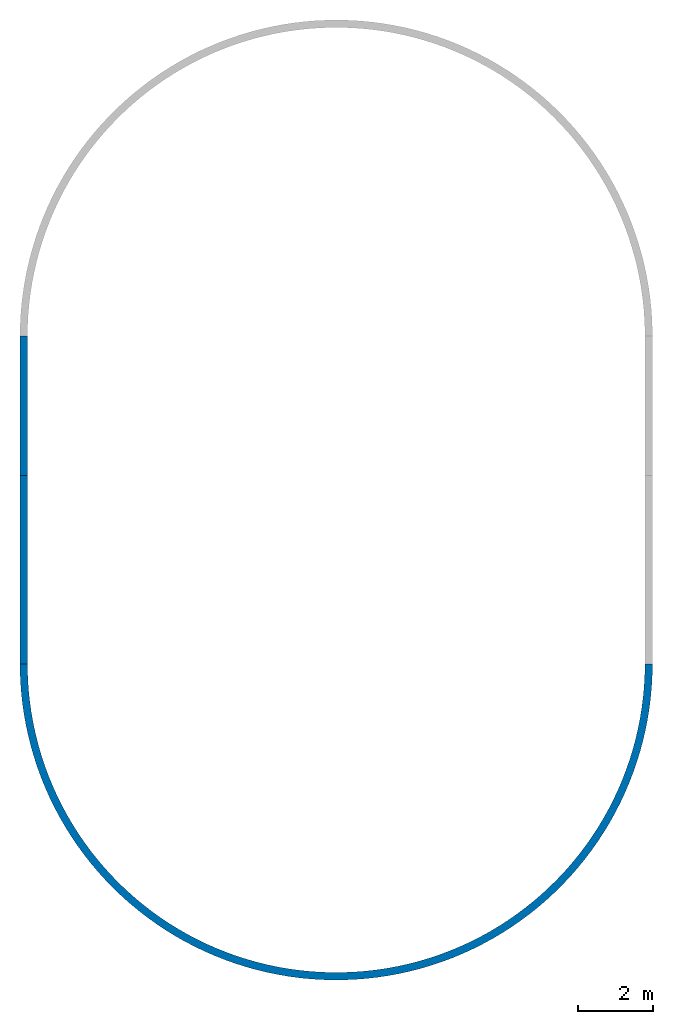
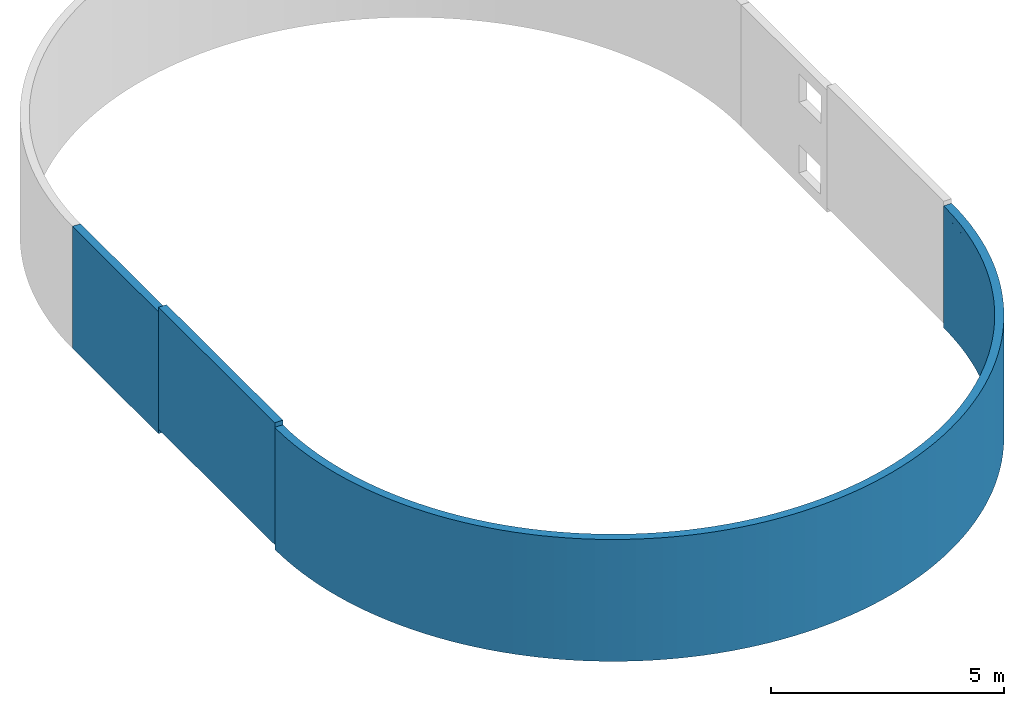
# One storey, part 1 of 2: 3 walls.
"""IFC4 building model written with IfcOpenShell, lengths in millimetres."""

from ifc_helpers import new_model, entity, si_unit, converted_unit, derived_unit, direction, frame, origin_with_axes, place, context, subcontext, project, spatial, polygons, material, constituent, constituent_set, type_object, element, save


model = new_model("IFC4")

# Units and contexts
model_context = context("Model", 3, precision=0.01, world=origin_with_axes(), true_north=direction((0.0, 1.0)))
body_context = subcontext(model_context, "Body", "Model", "MODEL_VIEW")
ifc_project = project(units=[si_unit("LENGTHUNIT", "METRE", prefix="MILLI"), si_unit("AREAUNIT", "SQUARE_METRE"), si_unit("VOLUMEUNIT", "CUBIC_METRE"), converted_unit("PLANEANGLEUNIT", "DEGREE", entity("IfcPlaneAngleMeasure", 0.0174532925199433), si_unit("PLANEANGLEUNIT", "RADIAN"), dimensions=[0, 0, 0, 0, 0, 0, 0]), converted_unit("TIMEUNIT", "Year", entity("IfcTimeMeasure", 31557600.0), si_unit("TIMEUNIT", "SECOND"), dimensions=[0, 0, 1, 0, 0, 0, 0]), si_unit("MASSUNIT", "GRAM", prefix="KILO"), si_unit("THERMODYNAMICTEMPERATUREUNIT", "DEGREE_CELSIUS"), si_unit("LUMINOUSINTENSITYUNIT", "LUMEN"), si_unit("ENERGYUNIT", "JOULE", prefix="MEGA"), derived_unit("THERMALCONDUCTANCEUNIT", [(si_unit("POWERUNIT", "WATT"), 1), (si_unit("LENGTHUNIT", "METRE"), -1), (si_unit("THERMODYNAMICTEMPERATUREUNIT", "KELVIN"), -1)]), derived_unit("SPECIFICHEATCAPACITYUNIT", [(si_unit("ENERGYUNIT", "JOULE"), 1), (si_unit("MASSUNIT", "GRAM", prefix="KILO"), -1), (si_unit("THERMODYNAMICTEMPERATUREUNIT", "KELVIN"), -1)]), derived_unit("MASSDENSITYUNIT", [(si_unit("MASSUNIT", "GRAM", prefix="KILO"), 1), (si_unit("VOLUMEUNIT", "CUBIC_METRE"), -1)])], contexts=[model_context])

# Site, building, storey
site_placement = place(None, origin_with_axes())
site = spatial("IfcSite", under=ifc_project, at=site_placement, Name="Exteriér", CompositionType="ELEMENT")
building_placement = place(site_placement, origin_with_axes())
building = spatial("IfcBuilding", under=site, at=building_placement, Name="Univerzitní lezecké centrum", CompositionType="ELEMENT")
storey_placement = place(building_placement, frame((0.0, 0.0, 3200.0), z_axis=(0.0, 0.0, 1.0), x_axis=(1.0, 0.0, 0.0)))
storey = spatial("IfcBuildingStorey", under=building, at=storey_placement, Name="2.NP", CompositionType="ELEMENT", Elevation=3200.0)

# Walls
ifc_material = material(Name="Tepelná izolace - minerální vata - obvodová izolace")
ifc_constituent_1 = constituent(ifc_material, Name="Tepelná izolace - minerální vata - obvodová izolace")
ifc_constituent_set_1 = constituent_set(constituents=[ifc_constituent_1], Name="Obvodová tepelná izolace")
wall_type = type_object("IfcWallType", Name="Obvodová tepelná izolace 200", PredefinedType="NOTDEFINED")
wall_1_placement = place(storey_placement, frame((-5750.14835114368, -300.1634077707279, -120.000000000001), z_axis=(0.0, 0.0, 1.0), x_axis=(1.968474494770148e-05, -0.9999999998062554, 0.0)))
element("IfcWall", 1, at=wall_1_placement, inside=storey, type_object=wall_type, material=ifc_constituent_set_1, Name="St01", PredefinedType="NOTDEFINED", context=body_context, shape_type="Tessellation", body=[
    polygons([(718.7701734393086, 30.29464050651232, 3000.0), (959.1753008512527, 55.70444339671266, 3000.0), (959.1753008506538, 55.70444339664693, 3200.0), (1005.038206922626, 60.55195815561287, 3200.0), (1005.038206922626, 60.55195815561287, 0.0), (718.7701734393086, 30.29464050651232, 0.0), (431.6166184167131, 10.10236219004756, 3000.0), (143.9313137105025, 0.0, 3000.0), (0.0, 0.0, 3000.0), (0.0, -0.9999999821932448, 3000.0), (143.7854392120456, -1.002830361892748, 3000.0), (431.5060259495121, 9.095100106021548, 3000.0), (718.6949967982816, 29.28418763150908, 3000.0), (718.8575022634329, 29.30204121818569, 3200.0), (718.6949967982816, 29.28418763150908, 3200.0), (736.3011532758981, -168.9664658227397, 3200.0), (1029.551333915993, -137.971164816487, 3200.0), (1290.068037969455, 100.8370382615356, 0.0), (1290.068037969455, 100.8370382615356, 3200.0), (1029.551333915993, -137.971164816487, 0.0), (736.3011532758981, -168.9664658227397, 0.0), (431.6166184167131, 10.10236219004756, 0.0), (143.9313137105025, 0.0, 0.0), (0.0, 0.0, 0.0), (0.0, -200.0000000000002, 0.0), (0.0, -200.0000000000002, 3200.0), (0.0, -0.9999999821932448, 3200.0), (143.7854392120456, -1.002830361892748, 3200.0), (143.9488153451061, -0.9970964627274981, 3200.0), (431.5060259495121, 9.095100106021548, 3200.0), (431.6690980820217, 9.106563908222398, 3200.0), (442.1438530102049, -189.6512387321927, 3200.0), (1321.53311206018, -96.70352178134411, 3200.0), (1321.53311206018, -96.70352178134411, 0.0), (1573.508511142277, 151.1002497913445, 0.0), (1573.508511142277, 151.1002497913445, 3200.0), (442.1438530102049, -189.6512387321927, 0.0), (147.4418335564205, -200.0000000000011, 0.0), (147.4418335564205, -200.0000000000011, 3200.0), (1611.886767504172, -45.21437826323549, 3200.0), (1611.886767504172, -45.21437826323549, 0.0), (1855.010429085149, 211.2796687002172, 0.0), (1855.010429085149, 211.2796687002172, 3200.0), (1900.254585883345, 16.43283135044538, 3200.0), (1900.254585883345, 16.43283135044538, 0.0), (2134.226982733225, 281.3011542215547, 0.0), (2134.226982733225, 281.3011542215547, 3200.0), (2186.281299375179, 88.16215798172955, 3200.0), (2186.281299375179, 88.16215798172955, 0.0), (2410.81417857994, 361.0784402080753, 0.0), (2410.81417857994, 361.0784402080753, 3200.0), (2469.61452438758, 169.8852314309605, 3200.0), (2469.61452438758, 169.8852314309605, 0.0), (2684.431262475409, 450.5132414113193, 0.0), (2684.431262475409, 450.5132414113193, 3200.0), (2749.905195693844, 261.5013692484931, 3200.0), (2749.905195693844, 261.5013692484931, 0.0), (2954.741139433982, 549.4953745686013, 0.0), (2954.741139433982, 549.4953745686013, 3200.0), (3026.807996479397, 362.8977007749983, 3200.0), (3026.807996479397, 362.8977007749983, 0.0), (3221.410788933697, 657.9028941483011, 0.0), (3221.410788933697, 657.9028941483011, 3200.0), (3299.98178377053, 473.9493061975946, 3200.0), (3299.98178377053, 473.9493061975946, 0.0), (3484.111675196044, 775.6022425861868, 0.0), (3484.111675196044, 775.6022425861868, 3200.0), (3569.09000872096, 594.519370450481, 3200.0), (3569.09000872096, 594.519370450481, 0.0), (3742.520151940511, 902.4484148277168, 0.0), (3742.520151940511, 902.4484148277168, 3200.0), (3833.801131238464, 724.4593517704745, 3200.0), (3833.801131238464, 724.4593517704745, 0.0), (3996.317861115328, 1038.285136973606, 0.0), (3996.317861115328, 1038.285136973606, 3200.0), (4093.789028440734, 863.6091646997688, 3200.0), (4093.789028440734, 863.6091646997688, 0.0), (4245.192125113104, 1182.945058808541, 0.0), (4245.192125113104, 1182.945058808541, 3200.0), (4348.733396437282, 1011.797377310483, 3200.0), (4348.733396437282, 1011.797377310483, 0.0), (4488.836331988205, 1336.249959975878, 0.0), (4488.836331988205, 1336.249959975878, 3200.0), (4598.320144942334, 1168.841422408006, 3200.0), (4598.320144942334, 1168.841422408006, 0.0), (4726.950313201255, 1498.010969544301, 0.0), (4726.950313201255, 1498.010969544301, 3200.0), (4842.241784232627, 1334.547822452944, 3200.0), (4842.241784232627, 1334.547822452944, 0.0), (4959.240713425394, 1668.028798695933, 0.0), (4959.240713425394, 1668.028798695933, 3200.0), (5080.197803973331, 1508.712427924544, 3200.0), (5080.197803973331, 1508.712427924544, 0.0), (5185.421351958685, 1846.093986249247, 0.0), (5185.421351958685, 1846.093986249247, 3200.0), (5311.895043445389, 1691.120668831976, 3200.0), (5311.895043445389, 1691.120668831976, 0.0), (5405.213575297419, 2031.987156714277, 0.0), (5405.213575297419, 2031.987156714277, 3200.0), (5537.048052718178, 1881.547819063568, 3200.0), (5537.048052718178, 1881.547819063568, 0.0), (5618.346600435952, 2225.479290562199, 0.0), (5618.346600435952, 2225.479290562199, 3200.0), (5755.379444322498, 2079.759273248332, 3200.0), (5755.379444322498, 2079.759273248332, 0.0), (5824.557848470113, 2426.332006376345, 0.0), (5824.557848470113, 2426.332006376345, 3200.0), (5966.620234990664, 2285.510835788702, 3200.0), (5966.620234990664, 2285.510835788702, 0.0), (6023.593268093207, 2634.297854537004, 0.0), (6023.593268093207, 2634.297854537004, 3200.0), (6170.51017704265, 2498.549021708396, 3200.0), (6170.51017704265, 2498.549021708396, 0.0), (6215.207648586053, 2849.120622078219, 0.0), (6215.207648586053, 2849.120622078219, 3200.0), (6366.798079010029, 2718.611368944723, 3200.0), (6366.798079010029, 2718.611368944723, 0.0), (6399.16492191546, 3070.53564834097, 0.0), (6399.16492191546, 3070.53564834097, 3200.0), (6555.242115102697, 2945.426761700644, 3200.0), (6555.242115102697, 2945.426761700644, 0.0), (6575.238453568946, 3298.270151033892, 0.0), (6575.238453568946, 3298.270151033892, 3200.0), (6735.610123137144, 3178.715764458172, 3200.0), (6735.610123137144, 3178.715764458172, 0.0), (6743.21132176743, 3532.043562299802, 0.0), (6743.21132176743, 3532.043562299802, 3200.0), (6907.679890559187, 3418.190966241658, 3200.0), (6907.679890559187, 3418.190966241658, 0.0), (6902.876584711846, 3771.567874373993, 0.0), (6902.876584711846, 3771.567874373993, 3200.0), (7071.239428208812, 3663.557334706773, 3200.0), (7071.239428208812, 3663.557334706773, 0.0), (7054.037535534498, 4016.547994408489, 0.0), (7054.037535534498, 4016.547994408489, 3200.0), (7226.087231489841, 3914.512579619, 3200.0), (7226.087231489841, 3914.512579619, 0.0), (7196.507944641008, 4266.68210802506, 0.0), (7196.507944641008, 4266.68210802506, 3200.0), (7372.032528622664, 4170.74752527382, 3200.0), (7372.032528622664, 4170.74752527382, 0.0), (7330.112289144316, 4521.662051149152, 0.0), (7330.112289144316, 4521.662051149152, 3200.0), (7508.895515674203, 4431.946491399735, 3200.0), (7508.895515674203, 4431.946491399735, 0.0), (7454.685969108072, 4781.173689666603, 0.0), (7454.685969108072, 4781.173689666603, 3200.0), (7636.507578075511, 4697.787682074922, 3200.0), (7636.507578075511, 4697.787682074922, 0.0), (7570.075510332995, 5044.89730643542, 0.0), (7570.075510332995, 5044.89730643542, 3200.0), (7754.711498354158, 4967.943582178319, 3200.0), (7754.711498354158, 4967.943582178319, 0.0), (7676.138753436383, 5312.50799517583, 0.0), (7676.138753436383, 5312.50799517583, 3200.0), (7863.361649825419, 5242.081360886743, 3200.0), (7863.361649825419, 5242.081360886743, 0.0), (7772.745028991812, 5583.676060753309, 0.0), (7772.745028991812, 5583.676060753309, 3200.0), (7962.324176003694, 5519.86328172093, 3200.0), (7962.324176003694, 5519.86328172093, 0.0), (7859.775318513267, 5858.067425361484, 0.0), (7859.775318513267, 5858.067425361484, 3200.0), (8051.477155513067, 5800.947118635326, 3200.0), (8051.477155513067, 5800.947118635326, 0.0), (7937.122401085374, 6135.344040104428, 0.0), (7937.122401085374, 6135.344040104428, 3200.0), (8130.710752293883, 6084.986577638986, 3200.0), (8130.710752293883, 6084.986577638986, 0.0), (8004.690985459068, 6415.164301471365, 0.0), (8004.690985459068, 6415.164301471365, 3200.0), (8199.927350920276, 6371.631723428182, 3200.0), (8199.927350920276, 6371.631723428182, 0.0), (8062.397827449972, 6697.183472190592, 0.0), (8062.397827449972, 6697.183472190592, 3200.0), (8259.041676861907, 6660.529410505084, 3200.0), (8259.041676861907, 6660.529410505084, 0.0), (8110.171832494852, 6981.054105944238, 0.0), (8110.171832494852, 6981.054105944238, 3200.0), (8307.980901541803, 6951.323718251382, 3200.0), (8307.980901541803, 6951.323718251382, 0.0), (8147.95414323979, 7266.426475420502, 0.0), (8147.95414323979, 7266.426475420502, 3200.0), (8346.68473206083, 7243.656389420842, 3200.0), (8346.68473206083, 7243.656389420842, 0.0), (8175.698212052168, 7552.949003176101, 0.0), (8175.698212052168, 7552.949003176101, 3200.0), (8375.105485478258, 7537.167271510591, 3200.0), (8375.105485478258, 7537.167271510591, 0.0), (8193.369858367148, 7840.268694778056, 0.0), (8193.369858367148, 7840.268694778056, 3200.0), (8393.20814755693, 7831.494760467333, 3200.0), (8393.20814755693, 7831.494760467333, 0.0), (8200.947310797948, 8128.031573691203, 0.0), (8200.947310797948, 8128.031573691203, 3200.0), (8400.970415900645, 8126.276246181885, 3200.0), (8400.970415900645, 8126.276246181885, 0.0), (8198.421233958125, 8415.883117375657, 0.0), (8198.421233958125, 8415.883117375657, 3200.0), (8398.382727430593, 8421.148559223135, 3200.0), (8398.382727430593, 8421.148559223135, 0.0), (8185.794739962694, 8703.46869405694, 0.0), (8185.794739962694, 8703.46869405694, 3200.0), (8385.448270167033, 8715.748418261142, 3200.0), (8385.448270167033, 8715.748418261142, 0.0), (8163.083384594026, 8990.433999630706, 0.0), (8163.083384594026, 8990.433999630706, 3200.0), (8362.182979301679, 9009.712877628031, 3200.0), (8362.182979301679, 9009.712877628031, 0.0), (8130.31514813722, 9276.425494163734, 0.0), (8130.31514813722, 9276.425494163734, 3200.0), (8328.615517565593, 9302.679774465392, 3200.0), (8328.615517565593, 9302.679774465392, 0.0), (8087.530400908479, 9561.09083745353, 0.0), (8087.530400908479, 9561.09083745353, 3200.0), (8284.787239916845, 9594.288174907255, 3200.0), (8284.787239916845, 9594.288174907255, 0.0), (8034.78185351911, 9844.07932310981, 0.0), (8034.78185351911, 9844.07932310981, 3200.0), (8230.752142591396, 9884.17881874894, 3200.0), (8230.752142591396, 9884.17881874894, 0.0), (7972.134491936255, 10125.04231062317, 0.0), (7972.134491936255, 10125.04231062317, 3200.0), (8166.576796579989, 10171.99456205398, 3200.0), (8166.576796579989, 10171.99456205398, 0.0), (7899.665497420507, 10403.63365488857, 0.0), (7899.665497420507, 10403.63365488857, 3200.0), (8092.340265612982, 10457.3808171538, 3200.0), (8092.340265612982, 10457.3808171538, 0.0), (7817.46415143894, 10679.51013265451, 0.0), (7817.46415143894, 10679.51013265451, 3200.0), (8008.134008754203, 10739.9859894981, 3200.0), (8008.134008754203, 10739.9859894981, 0.0), (7725.631725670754, 10952.33186537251, 0.0), (7725.631725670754, 10952.33186537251, 3200.0), (7914.061767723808, 11019.4619108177, 3200.0), (7914.061767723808, 11019.4619108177, 0.0), (7624.281357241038, 11221.76273792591, 0.0), (7624.281357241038, 11221.76273792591, 3200.0), (7810.239439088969, 11295.46426806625, 3200.0), (7810.239439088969, 11295.46426806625, 0.0), (7513.537909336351, 11487.47081272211, 0.0), (7513.537909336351, 11487.47081272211, 3200.0), (7696.794931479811, 11567.65302761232, 3200.0), (7696.794931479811, 11567.65302761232, 0.0), (7393.537817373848, 11749.12873863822, 0.0), (7393.537817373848, 11749.12873863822, 3200.0), (7573.868008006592, 11835.69285415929, 3200.0), (7573.868008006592, 11835.69285415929, 0.0), (7264.428920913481, 12006.41415431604, 0.0), (7264.428920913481, 12006.41415431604, 3200.0), (7441.610114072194, 12099.25352387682, 3200.0), (7441.610114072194, 12099.25352387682, 0.0), (7126.370281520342, 12259.01008530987, 0.0), (7126.370281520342, 12259.01008530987, 3200.0), (7300.184190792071, 12358.01033123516, 3200.0), (7300.184190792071, 12358.01033123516, 0.0), (6979.531986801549, 12506.60533459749, 0.0), (6979.531986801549, 12506.60533459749, 3200.0), (7149.764474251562, 12611.64448904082, 3200.0), (7149.764474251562, 12611.64448904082, 0.0), (6824.09494085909, 12748.89486597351, 0.0), (6824.09494085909, 12748.89486597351, 3200.0), (6990.536280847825, 12859.84352118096, 3200.0), (6990.536280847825, 12859.84352118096, 0.0), (6660.250641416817, 12985.58017985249, 0.0), (6660.250641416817, 12985.58017985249, 3200.0), (6822.695778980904, 13102.30164759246, 3200.0), (6822.695778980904, 13102.30164759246, 0.0), (6488.200943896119, 13216.36968101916, 0.0), (6488.200943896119, 13216.36968101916, 3200.0), (6646.449747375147, 13338.72016098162, 3200.0), (6646.449747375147, 13338.72016098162, 0.0), (6308.157812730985, 13440.9790378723, 0.0), (6308.157812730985, 13440.9790378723, 3200.0), (6462.015320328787, 13568.80779483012, 3200.0), (6462.015320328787, 13568.80779483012, 0.0), (6120.343060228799, 13659.13153271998, 0.0), (6120.343060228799, 13659.13153271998, 3200.0), (6269.619720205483, 13792.28108223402, 3200.0), (6269.619720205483, 13792.28108223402, 0.0), (5924.988073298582, 13870.55840269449, 0.0), (5924.988073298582, 13870.55840269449, 3200.0), (6069.499977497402, 14008.86470513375, 3200.0), (6069.499977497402, 14008.86470513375, 0.0), (5722.333528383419, 14074.99917086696, 0.0), (5722.333528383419, 14074.99917086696, 3200.0), (5861.902638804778, 14218.29183350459, 3200.0), (5861.902638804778, 14218.29183350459, 0.0), (5512.629094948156, 14272.20196715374, 0.0), (5512.629094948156, 14272.20196715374, 3200.0), (5647.083463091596, 14420.3044540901, 3200.0), (5647.083463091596, 14420.3044540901, 0.0), (5296.133127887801, 14461.92383861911, 0.0), (5296.133127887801, 14461.92383861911, 3200.0), (5425.307106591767, 14614.65368827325, 3200.0), (5425.307106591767, 14614.65368827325, 0.0), (5073.112349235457, 14643.9310487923, 0.0), (5073.112349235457, 14643.9310487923, 3200.0), (5196.846796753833, 14801.1000986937, 3200.0), (5196.846796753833, 14801.1000986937, 0.0), (4843.841519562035, 14817.99936562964, 0.0), (4843.841519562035, 14817.99936562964, 3200.0), (4961.983995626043, 14979.41398423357, 3200.0), (4961.983995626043, 14979.41398423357, 0.0), (4608.603099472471, 14983.91433776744, 0.0), (4608.603099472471, 14983.91433776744, 3200.0), (4721.00805309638, 15149.3756630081, 3200.0), (4721.00805309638, 15149.3756630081, 0.0), (4367.686901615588, 15141.47155872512, 0.0), (4367.686901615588, 15141.47155872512, 3200.0), (4474.215850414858, 15310.77574301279, 3200.0), (4474.215850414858, 15310.77574301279, 0.0), (4121.389733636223, 15290.47691873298, 0.0), (4121.389733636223, 15290.47691873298, 3200.0), (4221.91143443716, 15463.4153800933, 3200.0), (4221.91143443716, 15463.4153800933, 0.0), (3870.015032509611, 15430.74684387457, 0.0), (3870.015032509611, 15430.74684387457, 3200.0), (3964.405643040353, 15607.10652292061, 3200.0), (3964.405643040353, 15607.10652292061, 0.0), (3613.872490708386, 15562.10852224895, 0.0), (3613.872490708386, 15562.10852224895, 3200.0), (3702.015722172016, 15741.67214466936, 3200.0), (3702.015722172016, 15741.67214466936, 0.0), (3353.277674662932, 15684.40011687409, 0.0), (3353.277674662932, 15684.40011687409, 3200.0), (3435.064935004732, 15866.94646111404, 3200.0), (3435.064935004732, 15866.94646111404, 0.0), (3088.55163598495, 15797.47096506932, 0.0), (3088.55163598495, 15797.47096506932, 3200.0), (3163.882163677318, 15982.77513487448, 3200.0), (3163.882163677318, 15982.77513487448, 0.0), (2820.020515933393, 15901.18176407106, 0.0), (2820.020515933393, 15901.18176407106, 3200.0), (2888.801504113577, 16089.0154655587, 3200.0), (2888.801504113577, 16089.0154655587, 0.0), (2548.015143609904, 15995.40474265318, 0.0), (2548.015143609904, 15995.40474265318, 3200.0), (2610.161854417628, 16185.5365655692, 3200.0), (2610.161854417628, 16185.5365655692, 0.0), (2272.870628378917, 16080.02381854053, 0.0), (2272.870628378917, 16080.02381854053, 3200.0), (2328.306497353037, 16272.21952135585, 3200.0), (2328.306497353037, 16272.21952135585, 0.0), (1994.925947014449, 16154.93474142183, 0.0), (1994.925947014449, 16154.93474142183, 3200.0), (2043.582677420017, 16348.95753991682, 3200.0), (2043.582677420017, 16348.95753991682, 0.0), (1714.523526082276, 16220.04522138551, 0.0), (1714.523526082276, 16220.04522138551, 3200.0), (1756.341173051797, 16415.65608036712, 3200.0), (1756.341173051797, 16415.65608036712, 0.0), (1432.008820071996, 16275.2750426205, 0.0), (1432.008820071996, 16275.2750426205, 3200.0), (1466.935864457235, 16472.23297041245, 3200.0), (1466.935864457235, 16472.23297041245, 0.0), (1147.729885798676, 16320.55616224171, 0.0), (1147.729885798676, 16320.55616224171, 3200.0), (1175.723297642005, 16518.61850758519, 3200.0), (1175.723297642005, 16518.61850758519, 0.0), (999.771027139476, 16338.82574332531, 3000.0), (862.0369535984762, 16355.83279411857, 3000.0), (862.0369535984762, 16355.83279411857, 0.0), (999.771027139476, 16338.82574332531, 3200.0), (999.7710469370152, 16339.83138046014, 3200.0), (883.0622451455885, 16554.75554511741, 3200.0), (862.1180237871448, 16356.59980868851, 3200.0), (883.0622451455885, 16554.75554511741, 0.0), (1.688154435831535, 16399.98200375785, 3000.0), (287.818293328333, 16396.2111310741, 3000.0), (575.2819958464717, 16381.06147760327, 3000.0), (999.7710469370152, 16339.83138046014, 3000.0), (856.8951444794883, 16357.2360422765, 3000.0), (570.0977501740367, 16381.99563927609, 3000.0), (282.6080995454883, 16396.67500593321, 3000.0), (575.2819958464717, 16381.06147760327, 0.0), (856.8951444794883, 16357.2360422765, 3200.0), (589.3132640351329, 16580.59956234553, 3200.0), (575.3160064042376, 16381.54514033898, 3200.0), (589.3132640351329, 16580.59956234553, 0.0), (1.688154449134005, 16399.9820037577, 3200.0), (0.3228585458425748, 16399.99999681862, 3200.0), (0.3228585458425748, 16399.99999681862, 0.0), (287.818293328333, 16396.2111310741, 0.0), (570.0977501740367, 16381.99563927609, 3200.0), (287.8252282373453, 16396.40861670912, 3200.0), (282.6080995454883, 16396.67500593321, 3200.0), (294.8382517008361, 16596.11871955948, 3200.0), (294.8382517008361, 16596.11871955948, 0.0), (0.3307331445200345, 16599.9999966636, 3200.0), (0.3307331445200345, 16599.9999966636, 0.0)], [[[1, 2, 3, 4, 5, 6]], [[2, 1, 7, 8, 9, 10, 11, 12, 13]], [[14, 3, 2, 13, 15]], [[3, 14, 16, 17, 4]], [[18, 5, 4, 19]], [[20, 21, 6, 5]], [[7, 1, 6, 22]], [[8, 7, 22, 23]], [[9, 8, 23, 24]], [[10, 9, 24, 25, 26, 27]], [[10, 27, 28, 11]], [[29, 30, 12, 11, 28]], [[31, 15, 13, 12, 30]], [[15, 31, 32, 16, 14]], [[17, 16, 21, 20]], [[19, 4, 17, 33]], [[34, 20, 5, 18]], [[35, 18, 19, 36]], [[21, 37, 22, 6]], [[37, 38, 23, 22]], [[38, 25, 24, 23]], [[39, 26, 25, 38]], [[28, 27, 26, 39, 29]], [[30, 29, 39, 32, 31]], [[16, 32, 37, 21]], [[33, 17, 20, 34]], [[36, 19, 33, 40]], [[41, 34, 18, 35]], [[42, 35, 36, 43]], [[32, 39, 38, 37]], [[40, 33, 34, 41]], [[43, 36, 40, 44]], [[45, 41, 35, 42]], [[46, 42, 43, 47]], [[44, 40, 41, 45]], [[47, 43, 44, 48]], [[49, 45, 42, 46]], [[50, 46, 47, 51]], [[48, 44, 45, 49]], [[51, 47, 48, 52]], [[53, 49, 46, 50]], [[54, 50, 51, 55]], [[52, 48, 49, 53]], [[55, 51, 52, 56]], [[57, 53, 50, 54]], [[58, 54, 55, 59]], [[56, 52, 53, 57]], [[59, 55, 56, 60]], [[61, 57, 54, 58]], [[62, 58, 59, 63]], [[60, 56, 57, 61]], [[63, 59, 60, 64]], [[65, 61, 58, 62]], [[66, 62, 63, 67]], [[64, 60, 61, 65]], [[67, 63, 64, 68]], [[69, 65, 62, 66]], [[70, 66, 67, 71]], [[68, 64, 65, 69]], [[71, 67, 68, 72]], [[73, 69, 66, 70]], [[74, 70, 71, 75]], [[72, 68, 69, 73]], [[75, 71, 72, 76]], [[77, 73, 70, 74]], [[78, 74, 75, 79]], [[76, 72, 73, 77]], [[79, 75, 76, 80]], [[81, 77, 74, 78]], [[82, 78, 79, 83]], [[80, 76, 77, 81]], [[83, 79, 80, 84]], [[85, 81, 78, 82]], [[86, 82, 83, 87]], [[84, 80, 81, 85]], [[87, 83, 84, 88]], [[89, 85, 82, 86]], [[90, 86, 87, 91]], [[88, 84, 85, 89]], [[91, 87, 88, 92]], [[93, 89, 86, 90]], [[94, 90, 91, 95]], [[92, 88, 89, 93]], [[95, 91, 92, 96]], [[97, 93, 90, 94]], [[98, 94, 95, 99]], [[96, 92, 93, 97]], [[99, 95, 96, 100]], [[101, 97, 94, 98]], [[102, 98, 99, 103]], [[100, 96, 97, 101]], [[103, 99, 100, 104]], [[105, 101, 98, 102]], [[106, 102, 103, 107]], [[104, 100, 101, 105]], [[107, 103, 104, 108]], [[109, 105, 102, 106]], [[110, 106, 107, 111]], [[108, 104, 105, 109]], [[111, 107, 108, 112]], [[113, 109, 106, 110]], [[114, 110, 111, 115]], [[112, 108, 109, 113]], [[115, 111, 112, 116]], [[117, 113, 110, 114]], [[118, 114, 115, 119]], [[116, 112, 113, 117]], [[119, 115, 116, 120]], [[121, 117, 114, 118]], [[122, 118, 119, 123]], [[120, 116, 117, 121]], [[123, 119, 120, 124]], [[125, 121, 118, 122]], [[126, 122, 123, 127]], [[124, 120, 121, 125]], [[127, 123, 124, 128]], [[129, 125, 122, 126]], [[130, 126, 127, 131]], [[128, 124, 125, 129]], [[131, 127, 128, 132]], [[133, 129, 126, 130]], [[134, 130, 131, 135]], [[132, 128, 129, 133]], [[135, 131, 132, 136]], [[137, 133, 130, 134]], [[138, 134, 135, 139]], [[136, 132, 133, 137]], [[139, 135, 136, 140]], [[141, 137, 134, 138]], [[142, 138, 139, 143]], [[140, 136, 137, 141]], [[143, 139, 140, 144]], [[145, 141, 138, 142]], [[146, 142, 143, 147]], [[144, 140, 141, 145]], [[147, 143, 144, 148]], [[149, 145, 142, 146]], [[150, 146, 147, 151]], [[148, 144, 145, 149]], [[151, 147, 148, 152]], [[153, 149, 146, 150]], [[154, 150, 151, 155]], [[152, 148, 149, 153]], [[155, 151, 152, 156]], [[157, 153, 150, 154]], [[158, 154, 155, 159]], [[156, 152, 153, 157]], [[159, 155, 156, 160]], [[161, 157, 154, 158]], [[162, 158, 159, 163]], [[160, 156, 157, 161]], [[163, 159, 160, 164]], [[165, 161, 158, 162]], [[166, 162, 163, 167]], [[164, 160, 161, 165]], [[167, 163, 164, 168]], [[169, 165, 162, 166]], [[170, 166, 167, 171]], [[168, 164, 165, 169]], [[171, 167, 168, 172]], [[173, 169, 166, 170]], [[174, 170, 171, 175]], [[172, 168, 169, 173]], [[175, 171, 172, 176]], [[177, 173, 170, 174]], [[178, 174, 175, 179]], [[176, 172, 173, 177]], [[179, 175, 176, 180]], [[181, 177, 174, 178]], [[182, 178, 179, 183]], [[180, 176, 177, 181]], [[183, 179, 180, 184]], [[185, 181, 178, 182]], [[186, 182, 183, 187]], [[184, 180, 181, 185]], [[187, 183, 184, 188]], [[189, 185, 182, 186]], [[190, 186, 187, 191]], [[188, 184, 185, 189]], [[191, 187, 188, 192]], [[193, 189, 186, 190]], [[194, 190, 191, 195]], [[192, 188, 189, 193]], [[195, 191, 192, 196]], [[197, 193, 190, 194]], [[198, 194, 195, 199]], [[196, 192, 193, 197]], [[199, 195, 196, 200]], [[201, 197, 194, 198]], [[202, 198, 199, 203]], [[200, 196, 197, 201]], [[203, 199, 200, 204]], [[205, 201, 198, 202]], [[206, 202, 203, 207]], [[204, 200, 201, 205]], [[207, 203, 204, 208]], [[209, 205, 202, 206]], [[210, 206, 207, 211]], [[208, 204, 205, 209]], [[211, 207, 208, 212]], [[213, 209, 206, 210]], [[214, 210, 211, 215]], [[212, 208, 209, 213]], [[215, 211, 212, 216]], [[217, 213, 210, 214]], [[218, 214, 215, 219]], [[216, 212, 213, 217]], [[219, 215, 216, 220]], [[221, 217, 214, 218]], [[222, 218, 219, 223]], [[220, 216, 217, 221]], [[223, 219, 220, 224]], [[225, 221, 218, 222]], [[226, 222, 223, 227]], [[224, 220, 221, 225]], [[227, 223, 224, 228]], [[229, 225, 222, 226]], [[230, 226, 227, 231]], [[228, 224, 225, 229]], [[231, 227, 228, 232]], [[233, 229, 226, 230]], [[234, 230, 231, 235]], [[232, 228, 229, 233]], [[235, 231, 232, 236]], [[237, 233, 230, 234]], [[238, 234, 235, 239]], [[236, 232, 233, 237]], [[239, 235, 236, 240]], [[241, 237, 234, 238]], [[242, 238, 239, 243]], [[240, 236, 237, 241]], [[243, 239, 240, 244]], [[245, 241, 238, 242]], [[246, 242, 243, 247]], [[244, 240, 241, 245]], [[247, 243, 244, 248]], [[249, 245, 242, 246]], [[250, 246, 247, 251]], [[248, 244, 245, 249]], [[251, 247, 248, 252]], [[253, 249, 246, 250]], [[254, 250, 251, 255]], [[252, 248, 249, 253]], [[255, 251, 252, 256]], [[257, 253, 250, 254]], [[258, 254, 255, 259]], [[256, 252, 253, 257]], [[259, 255, 256, 260]], [[261, 257, 254, 258]], [[262, 258, 259, 263]], [[260, 256, 257, 261]], [[263, 259, 260, 264]], [[265, 261, 258, 262]], [[266, 262, 263, 267]], [[264, 260, 261, 265]], [[267, 263, 264, 268]], [[269, 265, 262, 266]], [[270, 266, 267, 271]], [[268, 264, 265, 269]], [[271, 267, 268, 272]], [[273, 269, 266, 270]], [[274, 270, 271, 275]], [[272, 268, 269, 273]], [[275, 271, 272, 276]], [[277, 273, 270, 274]], [[278, 274, 275, 279]], [[276, 272, 273, 277]], [[279, 275, 276, 280]], [[281, 277, 274, 278]], [[282, 278, 279, 283]], [[280, 276, 277, 281]], [[283, 279, 280, 284]], [[285, 281, 278, 282]], [[286, 282, 283, 287]], [[284, 280, 281, 285]], [[287, 283, 284, 288]], [[289, 285, 282, 286]], [[290, 286, 287, 291]], [[288, 284, 285, 289]], [[291, 287, 288, 292]], [[293, 289, 286, 290]], [[294, 290, 291, 295]], [[292, 288, 289, 293]], [[295, 291, 292, 296]], [[297, 293, 290, 294]], [[298, 294, 295, 299]], [[296, 292, 293, 297]], [[299, 295, 296, 300]], [[301, 297, 294, 298]], [[302, 298, 299, 303]], [[300, 296, 297, 301]], [[303, 299, 300, 304]], [[305, 301, 298, 302]], [[306, 302, 303, 307]], [[304, 300, 301, 305]], [[307, 303, 304, 308]], [[309, 305, 302, 306]], [[310, 306, 307, 311]], [[308, 304, 305, 309]], [[311, 307, 308, 312]], [[313, 309, 306, 310]], [[314, 310, 311, 315]], [[312, 308, 309, 313]], [[315, 311, 312, 316]], [[317, 313, 310, 314]], [[318, 314, 315, 319]], [[316, 312, 313, 317]], [[319, 315, 316, 320]], [[321, 317, 314, 318]], [[322, 318, 319, 323]], [[320, 316, 317, 321]], [[323, 319, 320, 324]], [[325, 321, 318, 322]], [[326, 322, 323, 327]], [[324, 320, 321, 325]], [[327, 323, 324, 328]], [[329, 325, 322, 326]], [[330, 326, 327, 331]], [[328, 324, 325, 329]], [[331, 327, 328, 332]], [[333, 329, 326, 330]], [[334, 330, 331, 335]], [[332, 328, 329, 333]], [[335, 331, 332, 336]], [[337, 333, 330, 334]], [[338, 334, 335, 339]], [[336, 332, 333, 337]], [[339, 335, 336, 340]], [[341, 337, 334, 338]], [[342, 338, 339, 343]], [[340, 336, 337, 341]], [[343, 339, 340, 344]], [[345, 341, 338, 342]], [[346, 342, 343, 347]], [[344, 340, 341, 345]], [[347, 343, 344, 348]], [[349, 345, 342, 346]], [[350, 346, 347, 351]], [[348, 344, 345, 349]], [[351, 347, 348, 352]], [[353, 349, 346, 350]], [[354, 350, 351, 355]], [[352, 348, 349, 353]], [[355, 351, 352, 356]], [[357, 353, 350, 354]], [[358, 354, 355, 359]], [[356, 352, 353, 357]], [[359, 355, 356, 360]], [[361, 357, 354, 358]], [[362, 363, 364, 358, 359, 365]], [[360, 356, 357, 361]], [[366, 365, 359, 360, 367, 368]], [[369, 361, 358, 364]], [[370, 371, 372, 363, 362, 373, 374, 375, 376]], [[363, 372, 377, 364]], [[365, 366, 373, 362]], [[367, 360, 361, 369]], [[378, 368, 367, 379, 380]], [[368, 378, 374, 373, 366]], [[381, 369, 364, 377]], [[371, 370, 382, 383, 384, 385]], [[372, 371, 385, 377]], [[380, 386, 375, 374, 378]], [[387, 388, 376, 375, 386]], [[388, 382, 370, 376]], [[379, 367, 369, 381]], [[386, 380, 379, 389, 387]], [[390, 381, 377, 385]], [[388, 387, 389, 391, 383, 382]], [[384, 383, 391, 392]], [[392, 390, 385, 384]], [[389, 379, 381, 390]], [[391, 389, 390, 392]]], closed=True),
])
ifc_constituent_2 = constituent(ifc_material, Name="Tepelná izolace - minerální vata - obvodová izolace")
ifc_constituent_set_2 = constituent_set(constituents=[ifc_constituent_2], Name="Obvodová tepelná izolace")
wall_2_placement = place(storey_placement, frame((-5750.148351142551, 4700.000000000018, 0.0), z_axis=(0.0, 0.0, 1.0), x_axis=(0.0, -1.0, 0.0)))
element("IfcWall", 2, at=wall_2_placement, inside=storey, type_object=wall_type, material=ifc_constituent_set_2, Name="St01", PredefinedType="NOTDEFINED", context=body_context, shape_type="Tessellation", body=[
    polygons([(5000.00000050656, 1.799982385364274e-08, 2879.999999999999), (5000.163407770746, 1.110223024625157e-09, 2879.999999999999), (5000.163407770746, 1.108446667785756e-09, 0.0), (0.0, 0.0, 0.0), (0.0, 0.0, 3200.0), (5000.163407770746, 1.110223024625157e-09, 3200.0), (5000.163407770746, 1.110223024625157e-09, 3079.999999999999), (5000.00000050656, 1.799982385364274e-08, 3079.999999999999), (5000.000000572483, -0.9999999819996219, 2879.999999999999), (5000.163407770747, -0.9999999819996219, 2879.999999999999), (5000.163407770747, -0.9999999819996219, 3079.999999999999), (5000.16340777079, -199.9999999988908, 3200.0), (5000.16340777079, -199.9999999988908, 0.0), (0.0, -200.0000000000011, 0.0), (0.0, -200.0000000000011, 3200.0), (5000.000000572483, -0.9999999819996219, 3079.999999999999)], [[[1, 2, 3, 4, 5, 6, 7, 8]], [[2, 1, 9, 10]], [[11, 7, 6, 12, 13, 3, 2, 10]], [[4, 3, 13, 14]], [[5, 4, 14, 15]], [[15, 12, 6, 5]], [[8, 7, 11, 16]], [[1, 8, 16, 9]], [[11, 10, 9, 16]], [[14, 13, 12, 15]]], closed=True),
])
ifc_constituent_3 = constituent(ifc_material, Name="Tepelná izolace - minerální vata - obvodová izolace")
ifc_constituent_set_3 = constituent_set(constituents=[ifc_constituent_3], Name="Obvodová tepelná izolace")
wall_3_placement = place(storey_placement, frame((-5750.148351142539, 8400.000000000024, -120.000000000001), z_axis=(0.0, 0.0, 1.0), x_axis=(0.0, -1.0, 0.0)))
element("IfcWall", 3, at=wall_3_placement, inside=storey, type_object=wall_type, material=ifc_constituent_set_3, Name="St01", PredefinedType="NOTDEFINED", context=body_context, shape_type="Tessellation", body=[
    polygons([(3700.000000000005, 0.0, 0.0), (3700.000000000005, -200.0000000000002, 0.0), (0.0, -200.0000000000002, 0.0), (0.0, 0.0, 0.0), (3700.000000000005, 0.0, 3200.0), (3700.000000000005, -200.0000000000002, 3200.0), (0.0, -200.0000000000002, 3200.0), (0.0, 0.0, 3200.0)], [[[1, 2, 3, 4]], [[1, 5, 6, 2]], [[2, 6, 7, 3]], [[4, 3, 7, 8]], [[5, 1, 4, 8]], [[6, 5, 8, 7]]], closed=True),
])

save(model, "model.ifc")
